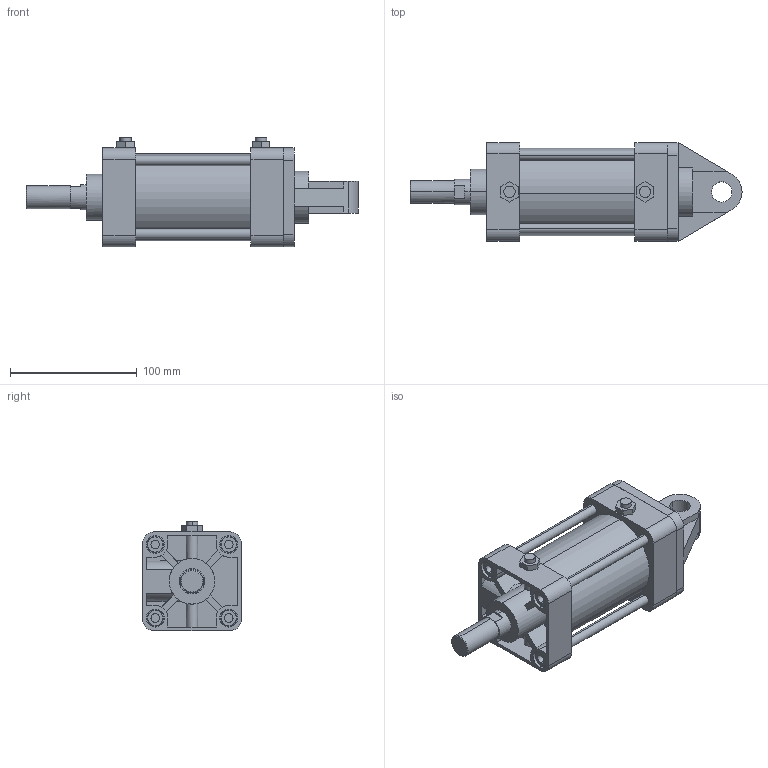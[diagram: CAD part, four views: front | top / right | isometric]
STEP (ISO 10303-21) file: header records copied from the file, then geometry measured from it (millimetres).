
FILE_DESCRIPTION (( 'STEP AP203' ), '1' );
FILE_NAME ('KG2-63-50-C.STEP', '2016-04-01T08:15:32', ( '' ), ( '' ), 'SwSTEP 2.0', 'SolidWorks 2014', '' );
FILE_SCHEMA (( 'CONFIG_CONTROL_DESIGN' ));
Length unit declared in the file: millimetre
Products named in the file (7): K-63-C; KG2-63-After; KG2-63-50-C; KGLH2-63-50
Assembly tree (16 placements, depth 2):
  KG2-63-50-C
    KG2-63-After
    KGLH2-63-50
    (unnamed)
    (unnamed)  x4
    (unnamed)  x8
    K-63-C
Bounding box: 262 x 78 x 86.3 mm (x, y, z)
Volume: 698184 mm3; surface area: 141603.4 mm2
Topology: 16 solids, 16 shells, 354 faces, 853 edges, 546 vertices
Faces by surface type: plane 158, cylinder 138, torus 32, cone 26
Entity records: 9173 total; most frequent: CARTESIAN_POINT 1605, DIRECTION 1439, ORIENTED_EDGE 1326, EDGE_CURVE 663, AXIS2_PLACEMENT_3D 525, VERTEX_POINT 436, VECTOR 389, LINE 389
